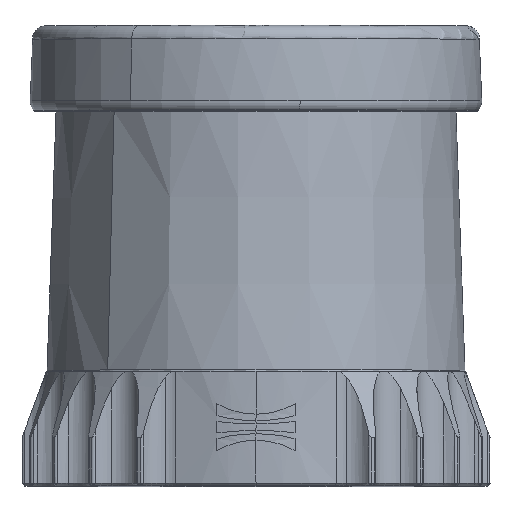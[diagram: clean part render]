
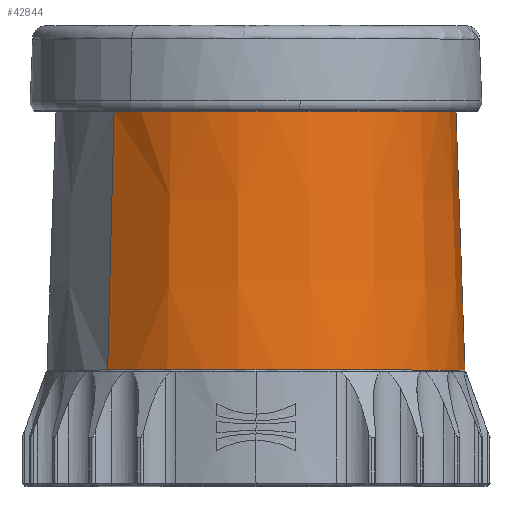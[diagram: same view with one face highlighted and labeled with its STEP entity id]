
A CAD part, top view. The second image highlights one B-rep face of the part: STEP entity #42844.
In plain terms, the highlighted conical face has half-angle 2 degrees and reference radius 37.078 mm.
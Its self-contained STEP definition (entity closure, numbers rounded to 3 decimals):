
#5627 = CARTESIAN_POINT ( 'NONE',  ( 26.218, 76.35, -26.218 ) ) ;
#6416 = CIRCLE ( 'NONE', #29027, 37.312 ) ;
#8257 = CIRCLE ( 'NONE', #128022, 38.991 ) ;
#11270 = DIRECTION ( 'NONE',  ( 0., 1., 0. ) ) ;
#13014 = EDGE_CURVE ( 'NONE', #95868, #92051, #8257, .T. ) ;
#16416 = AXIS2_PLACEMENT_3D ( 'NONE', #129406, #42350, #97603 ) ;
#22745 = ORIENTED_EDGE ( 'NONE', *, *, #101616, .F. ) ;
#29027 = AXIS2_PLACEMENT_3D ( 'NONE', #76524, #11270, #35381 ) ;
#35045 = VECTOR ( 'NONE', #40968, 1000. ) ;
#35381 = DIRECTION ( 'NONE',  ( 0.707, 0., -0.707 ) ) ;
#38259 = ORIENTED_EDGE ( 'NONE', *, *, #13014, .F. ) ;
#39905 = VERTEX_POINT ( 'NONE', #118909 ) ;
#40968 = DIRECTION ( 'NONE',  ( 0.025, -0.999, -0.025 ) ) ;
#42350 = DIRECTION ( 'NONE',  ( 0., -1., 0. ) ) ;
#42844 = ADVANCED_FACE ( 'NONE', ( #106868 ), #50463, .T. ) ;
#43162 = VECTOR ( 'NONE', #50480, 1000. ) ;
#44978 = DIRECTION ( 'NONE',  ( -0.707, 0., 0.707 ) ) ;
#50463 = CONICAL_SURFACE ( 'NONE', #16416, 37.078, 0.035 ) ;
#50480 = DIRECTION ( 'NONE',  ( -0.025, -0.999, 0.025 ) ) ;
#71806 = LINE ( 'NONE', #106386, #43162 ) ;
#74524 = CARTESIAN_POINT ( 'NONE',  ( 27.571, 21.565, -27.571 ) ) ;
#76524 = CARTESIAN_POINT ( 'NONE',  ( 0., 69.66, 0. ) ) ;
#92051 = VERTEX_POINT ( 'NONE', #108452 ) ;
#95868 = VERTEX_POINT ( 'NONE', #74524 ) ;
#97603 = DIRECTION ( 'NONE',  ( -0.707, 0., 0.707 ) ) ;
#98136 = DIRECTION ( 'NONE',  ( 0., -1., 0. ) ) ;
#101616 = EDGE_CURVE ( 'NONE', #39905, #95868, #113975, .T. ) ;
#106386 = CARTESIAN_POINT ( 'NONE',  ( -26.218, 76.35, 26.218 ) ) ;
#106868 = FACE_OUTER_BOUND ( 'NONE', #135871, .T. ) ;
#108452 = CARTESIAN_POINT ( 'NONE',  ( -27.571, 21.565, 27.571 ) ) ;
#113975 = LINE ( 'NONE', #5627, #35045 ) ;
#116820 = VERTEX_POINT ( 'NONE', #132901 ) ;
#117112 = ORIENTED_EDGE ( 'NONE', *, *, #120594, .F. ) ;
#118909 = CARTESIAN_POINT ( 'NONE',  ( 26.383, 69.66, -26.383 ) ) ;
#120594 = EDGE_CURVE ( 'NONE', #116820, #39905, #6416, .T. ) ;
#128022 = AXIS2_PLACEMENT_3D ( 'NONE', #129942, #98136, #44978 ) ;
#129406 = CARTESIAN_POINT ( 'NONE',  ( 0., 76.35, 0. ) ) ;
#129942 = CARTESIAN_POINT ( 'NONE',  ( 0., 21.565, 0. ) ) ;
#132901 = CARTESIAN_POINT ( 'NONE',  ( -26.383, 69.66, 26.383 ) ) ;
#135130 = EDGE_CURVE ( 'NONE', #116820, #92051, #71806, .T. ) ;
#135871 = EDGE_LOOP ( 'NONE', ( #22745, #117112, #139206, #38259 ) ) ;
#139206 = ORIENTED_EDGE ( 'NONE', *, *, #135130, .T. ) ;
